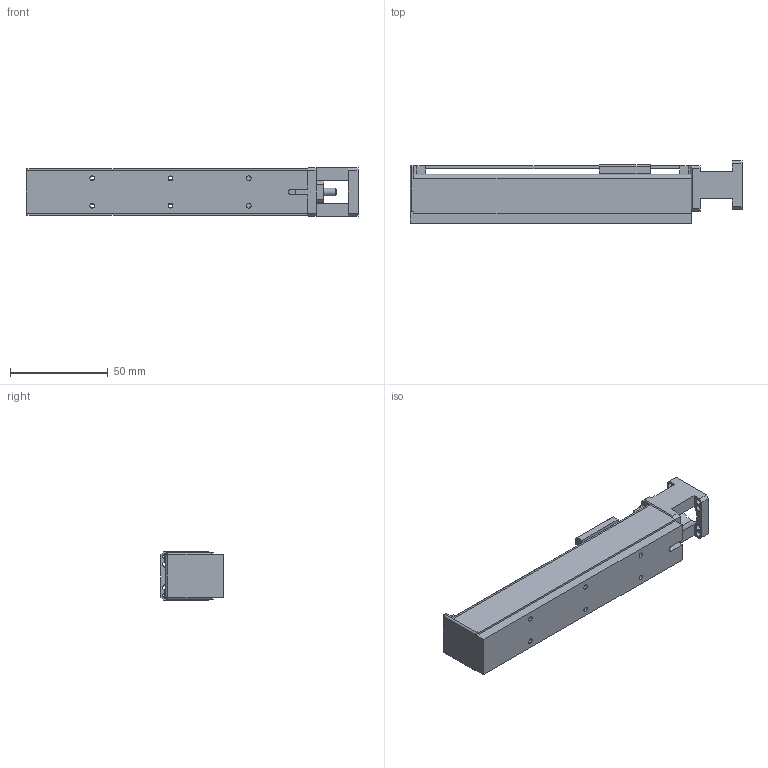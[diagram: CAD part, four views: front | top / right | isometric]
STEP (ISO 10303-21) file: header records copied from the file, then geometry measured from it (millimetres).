
FILE_DESCRIPTION (( 'STEP AP203' ), '1' );
FILE_NAME ('FAS-080.STEP', '2015-08-25T04:52:14', ( '' ), ( '' ), 'SwSTEP 2.0', 'SolidWorks 2015', '' );
FILE_SCHEMA (( 'CONFIG_CONTROL_DESIGN' ));
Length unit declared in the file: millimetre
Products named in the file (1): FAS-080
Bounding box: 170 x 32 x 25 mm (x, y, z)
Volume: 49253.3 mm3; surface area: 34013.9 mm2
Topology: 2 solids, 2 shells, 150 faces, 429 edges, 278 vertices
Faces by surface type: plane 90, cylinder 56, cone 2, sphere 2
Entity records: 5032 total; most frequent: CARTESIAN_POINT 856, ORIENTED_EDGE 854, DIRECTION 847, EDGE_CURVE 427, LINE 309, VECTOR 309, VERTEX_POINT 278, AXIS2_PLACEMENT_3D 269
